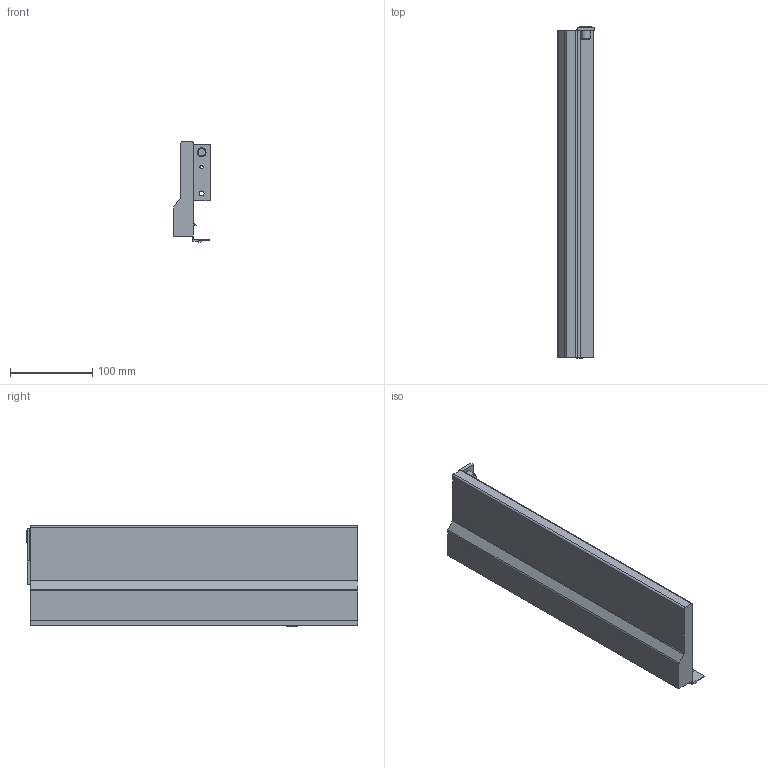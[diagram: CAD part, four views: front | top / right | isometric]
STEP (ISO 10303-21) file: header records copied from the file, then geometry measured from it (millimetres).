
FILE_DESCRIPTION (( 'STEP AP214' ), '1' );
FILE_NAME ('_IMOS_NOVA-Pro_Dekor-H122_CL_NL400_LI.step', '2010-07-06T09:36:12', ( 'grass' ), ( '' ), 'SwSTEP 2.0', 'SolidWorks 2009', '' );
FILE_SCHEMA (( 'AUTOMOTIVE_DESIGN' ));
Length unit declared in the file: millimetre
Products named in the file (1): _IMOS_NOVA-Pro_Dekor-H122_CL_NL400_LI
Bounding box: 44.3 x 402.7 x 122.49 mm (x, y, z)
Volume: 548743.5 mm3; surface area: 166163.2 mm2
Topology: 1 solids, 1 shells, 73 faces, 194 edges, 128 vertices
Faces by surface type: plane 42, cylinder 26, cone 4, bspline 1
Entity records: 2325 total; most frequent: CARTESIAN_POINT 417, DIRECTION 394, ORIENTED_EDGE 388, EDGE_CURVE 194, VECTOR 136, LINE 136, AXIS2_PLACEMENT_3D 129, VERTEX_POINT 128
